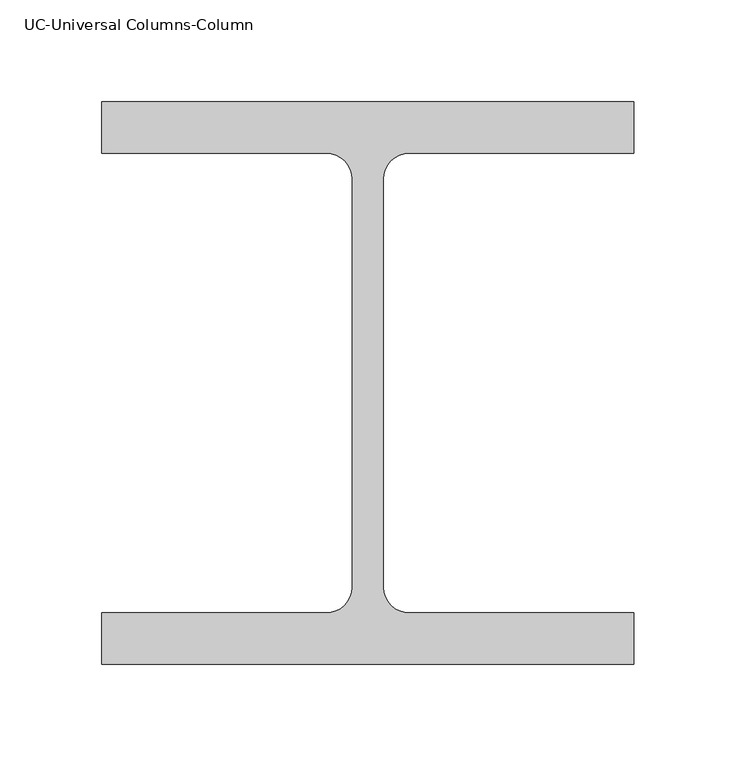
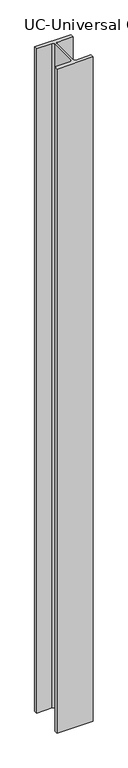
"""IFC4 building model written with IfcOpenShell, lengths in millimetres: column geometry."""

from ifc_helpers import new_model, si_unit, point, frame, frame_2d, origin, place, context, project, spatial, polyline, circle_curve, trimmed, segment, composite_curve, outline, extrude, source, transform, mapped, element, save


def uc_universal_columns_column_75153143(model_context):
    return source(origin(), model_context, "Body", "SweptSolid", [
        extrude(outline(composite_curve([segment(polyline([(130.65, 138.15), (130.65, 112.85), (20.35, 112.85)]), True, "CONTINUOUS"), segment(trimmed(circle_curve(frame_2d((20.35, 100.15)), 12.7), [point((20.35, 112.85))], [point((7.65, 100.15))], True, "CARTESIAN"), True, "CONTINUOUS"), segment(polyline([(7.65, 100.15), (7.65, -100.15)]), True, "CONTINUOUS"), segment(trimmed(circle_curve(frame_2d((20.35, -100.15)), 12.7), [point((7.65, -100.15))], [point((20.35, -112.85))], True, "CARTESIAN"), True, "CONTINUOUS"), segment(polyline([(20.35, -112.85), (130.65, -112.85), (130.65, -138.15), (-130.65, -138.15), (-130.65, -112.85), (-20.35, -112.85)]), True, "CONTINUOUS"), segment(trimmed(circle_curve(frame_2d((-20.35, -100.15)), 12.7), [point((-20.35, -112.85))], [point((-7.65, -100.15))], True, "CARTESIAN"), True, "CONTINUOUS"), segment(polyline([(-7.65, -100.15), (-7.65, 100.15)]), True, "CONTINUOUS"), segment(trimmed(circle_curve(frame_2d((-20.35, 100.15)), 12.7), [point((-7.65, 100.15))], [point((-20.35, 112.85))], True, "CARTESIAN"), True, "CONTINUOUS"), segment(polyline([(-20.35, 112.85), (-130.65, 112.85), (-130.65, 138.15), (130.65, 138.15)]), True, "CONTINUOUS")], self_intersect=False)), frame((0.0, 0.0, -450.0), z_axis=(0.0, 0.0, 1.0), x_axis=(1.0, 0.0, 0.0)), (0.0, 0.0, 1.0), 5045.0),
    ])


if __name__ == "__main__":
    model = new_model("IFC4")
    model_context = context("Model", 3, world=origin())
    ifc_project = project(units=[si_unit("LENGTHUNIT", "METRE", prefix="MILLI")], contexts=[model_context])
    site = spatial("IfcSite", under=ifc_project)
    building = spatial("IfcBuilding", under=site)
    placement = place(None, origin())
    uc_universal_columns_column_shape = uc_universal_columns_column_75153143(model_context)
    element("IfcColumn", 1, ObjectType="UC-Universal Columns-Column : UC 10\" x 10\" x 5 1/2\"", at=placement, inside=building, context=model_context, shape_type="MappedRepresentation", body=[
        mapped(uc_universal_columns_column_shape, transform((0.0, 0.0, 0.0), x_axis=(1.0, 0.0, 0.0), y_axis=(0.0, 1.0, 0.0), z_axis=(0.0, 0.0, 1.0))),
    ])
    save(model, "model.ifc")
